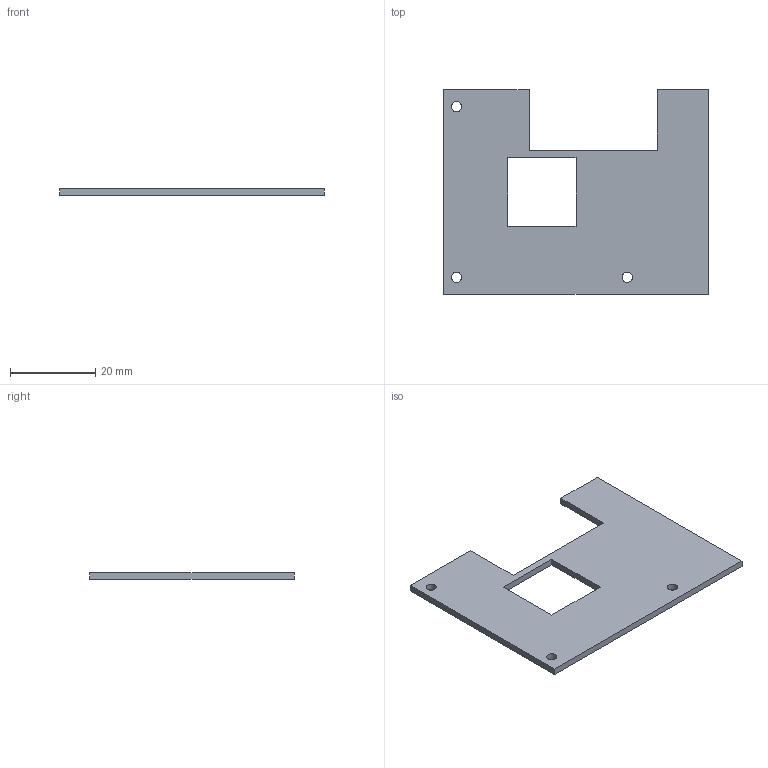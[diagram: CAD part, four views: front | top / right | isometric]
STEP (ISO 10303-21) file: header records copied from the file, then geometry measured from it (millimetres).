
FILE_DESCRIPTION(('Open CASCADE Model'),'2;1');
FILE_NAME('Open CASCADE Shape Model','2026-10-02T07:52:38',('Author'),( 'Open CASCADE'),'Open CASCADE STEP processor 7.8','Open CASCADE 7.8' ,'Unknown');
FILE_SCHEMA(('AUTOMOTIVE_DESIGN { 1 0 10303 214 1 1 1 1 }'));
Length unit declared in the file: millimetre
Products named in the file (1): Open CASCADE STEP translator 7.8 2
Bounding box: 62 x 48 x 1.6 mm (x, y, z)
Volume: 3648.7 mm3; surface area: 5096.9 mm2
Topology: 1 solids, 1 shells, 17 faces, 45 edges, 30 vertices
Faces by surface type: plane 14, cylinder 3
Full cylindrical faces by diameter (mm): 2.4 x3
Entity records: 1104 total; most frequent: CARTESIAN_POINT 215, DIRECTION 145, LINE 91, VECTOR 91, ORIENTED_EDGE 90, PCURVE 90, DEFINITIONAL_REPRESENTATION 90, EDGE_CURVE 45
